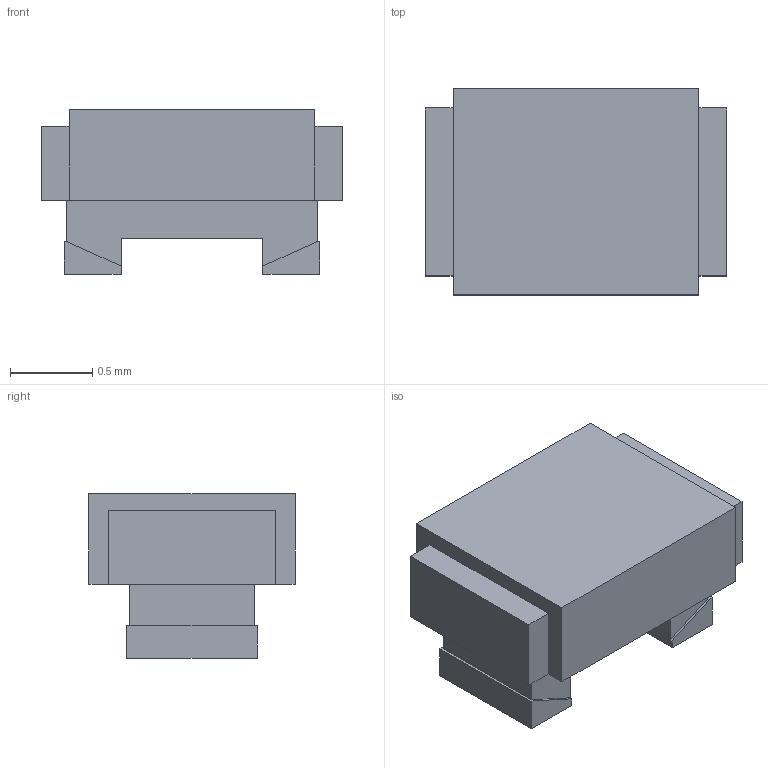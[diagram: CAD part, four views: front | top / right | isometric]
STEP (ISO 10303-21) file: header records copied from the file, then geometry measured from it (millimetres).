
FILE_DESCRIPTION(('STEP AP203'), '1');
FILE_NAME('KIK 1608 (0603) Îëîâî', '', ('UNSPECIFIED'), ('UNSPECIFIED'), 'ASCON STEP Converter 1.6', 'ASCON Math Kernel', '');
FILE_SCHEMA(('CONFIG_CONTROL_DESIGN'));
Length unit declared in the file: millimetre
Assembly tree (1 placements, depth 2):
  (unnamed)
    (unnamed)
Bounding box: 1.83 x 1.25 x 1 mm (x, y, z)
Volume: 1.6 mm3; surface area: 10 mm2
Topology: 1 solids, 2 shells, 54 faces, 143 edges, 94 vertices
Faces by surface type: plane 50, cylinder 4
Entity records: 2171 total; most frequent: CARTESIAN_POINT 293, ORIENTED_EDGE 286, DIRECTION 263, EDGE_CURVE 143, LINE 135, VECTOR 135, VERTEX_POINT 94, AXIS2_PLACEMENT_3D 64
